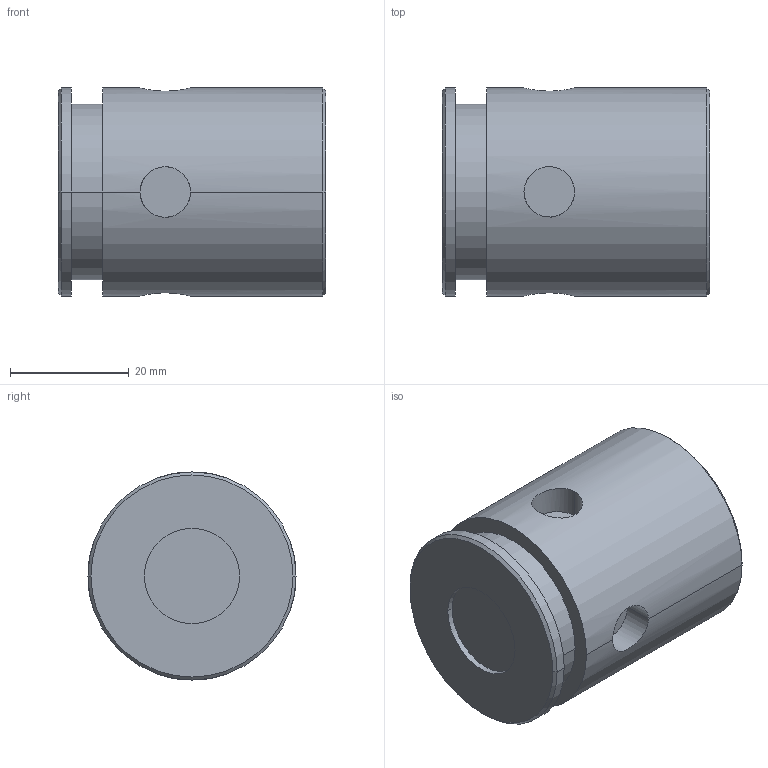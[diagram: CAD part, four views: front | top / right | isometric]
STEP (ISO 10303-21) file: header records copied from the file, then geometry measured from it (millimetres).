
FILE_DESCRIPTION((''),'2;1');
FILE_NAME('VJ3_16_100_03_298648','2021-06-02T',('l.soukupova'),(''),'PRO/ENGINEER BY PARAMETRIC TECHNOLOGY CORPORATION, 2015440','PRO/ENGINEER BY PARAMETRIC TECHNOLOGY CORPORATION, 2015440','');
FILE_SCHEMA(('AUTOMOTIVE_DESIGN { 1 0 10303 214 1 1 1 1 }'));
Length unit declared in the file: millimetre
Products named in the file (1): VJ3_16_100_03_298648
Bounding box: 45 x 35 x 35 mm (x, y, z)
Volume: 39527.6 mm3; surface area: 7977 mm2
Topology: 1 solids, 1 shells, 32 faces, 69 edges, 50 vertices
Faces by surface type: cylinder 18, plane 10, cone 4
Entity records: 1456 total; most frequent: CARTESIAN_POINT 464, DIRECTION 159, ORIENTED_EDGE 128, PRESENTATION_STYLE_ASSIGNMENT 71, STYLED_ITEM 71, CURVE_STYLE 70, AXIS2_PLACEMENT_3D 65, EDGE_CURVE 64
